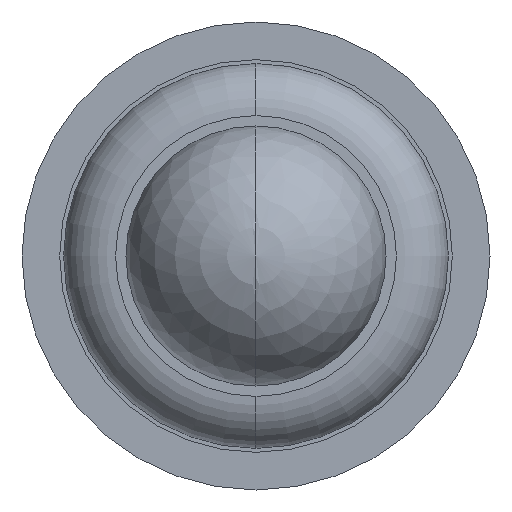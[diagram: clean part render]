
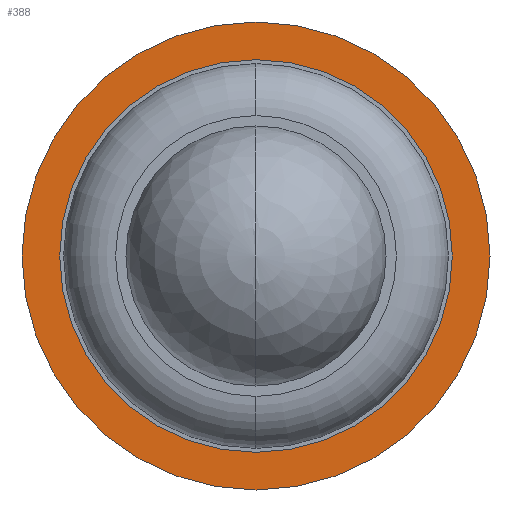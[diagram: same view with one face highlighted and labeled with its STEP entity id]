
A CAD part, left-side view. The second image highlights one B-rep face of the part: STEP entity #388.
In plain terms, the highlighted planar face has unit normal (-1, 0, 0).
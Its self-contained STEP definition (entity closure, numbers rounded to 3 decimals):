
#97=CARTESIAN_POINT('',(-0.4,0.,0.));
#98=DIRECTION('',(1.,0.,0.));
#99=DIRECTION('',(0.,0.,-1.));
#100=AXIS2_PLACEMENT_3D('',#97,#98,#99);
#110=CARTESIAN_POINT('',(-0.4,0.,0.));
#111=DIRECTION('',(-1.,0.,0.));
#112=DIRECTION('',(0.,0.,-1.));
#113=AXIS2_PLACEMENT_3D('',#110,#111,#112);
#115=CARTESIAN_POINT('',(-0.4,0.,0.));
#116=DIRECTION('',(1.,0.,0.));
#117=DIRECTION('',(0.,0.,-1.));
#118=AXIS2_PLACEMENT_3D('',#115,#116,#117);
#120=CARTESIAN_POINT('',(-0.4,0.,0.));
#121=DIRECTION('',(-1.,0.,0.));
#122=DIRECTION('',(0.,0.,-1.));
#123=AXIS2_PLACEMENT_3D('',#120,#121,#122);
#169=CARTESIAN_POINT('',(-0.4,0.,-0.9));
#170=VERTEX_POINT('',#169);
#171=CARTESIAN_POINT('',(-0.4,0.,-0.755));
#173=VERTEX_POINT('',#171);
#189=CARTESIAN_POINT('',(-0.4,0.,0.9));
#190=VERTEX_POINT('',#189);
#191=CARTESIAN_POINT('',(-0.4,0.,0.755));
#193=VERTEX_POINT('',#191);
#373=CARTESIAN_POINT('',(-0.4,0.,0.));
#374=DIRECTION('',(1.,0.,0.));
#375=DIRECTION('',(0.,0.,1.));
#376=AXIS2_PLACEMENT_3D('',#373,#374,#375);
#377=PLANE('',#376);
#379=ORIENTED_EDGE('',*,*,#378,.T.);
#381=ORIENTED_EDGE('',*,*,#380,.F.);
#382=EDGE_LOOP('',(#379,#381));
#383=FACE_OUTER_BOUND('',#382,.F.);
#384=ORIENTED_EDGE('',*,*,#368,.T.);
#385=ORIENTED_EDGE('',*,*,#352,.F.);
#386=EDGE_LOOP('',(#384,#385));
#387=FACE_BOUND('',#386,.F.);
#388=ADVANCED_FACE('',(#383,#387),#377,.F.);
#101=CIRCLE('',#100,0.755);
#114=CIRCLE('',#113,0.755);
#119=CIRCLE('',#118,0.9);
#124=CIRCLE('',#123,0.9);
#352=EDGE_CURVE('',#173,#193,#101,.T.);
#368=EDGE_CURVE('',#173,#193,#114,.T.);
#378=EDGE_CURVE('',#170,#190,#119,.T.);
#380=EDGE_CURVE('',#170,#190,#124,.T.);
